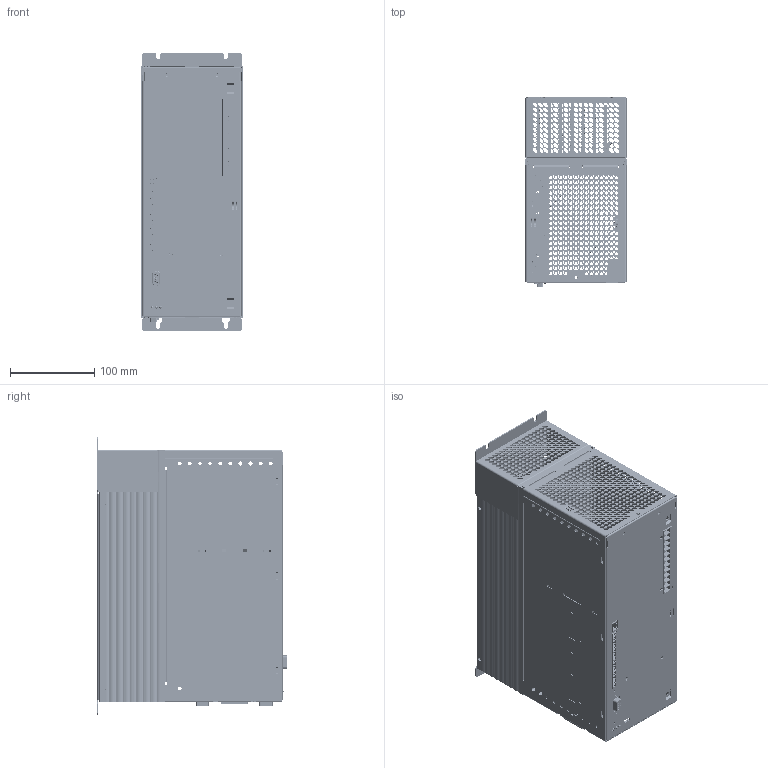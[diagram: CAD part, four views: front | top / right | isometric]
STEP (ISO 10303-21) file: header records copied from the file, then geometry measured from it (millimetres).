
FILE_DESCRIPTION (( 'STEP AP214' ), '1' );
FILE_NAME ('CDB34.014.W_34.017.W.STEP', '2010-09-21T06:22:29', ( 'Bereich' ), ( 'LTi DRiVES GmbH' ), 'SwSTEP 2.0', 'SolidWorks 2008', '' );
FILE_SCHEMA (( 'AUTOMOTIVE_DESIGN' ));
Length unit declared in the file: millimetre
Products named in the file (28): Steuerprint_Standard; LED_3FACH_108455; 0894.Seitenteil-rechts_Standard; pc_4-12-g-7.62_Standard; Lüfterkasten_Standard; MSTBA_2.5-2-G1_Standard; MSTBA_2.5-2-G(1)1_Standard; D_SUB_15POLIG_Standard; polig-Stift_Standard; mc_1_5-10-g-3_81_Standard; Codierschalter_Standard; 0931.500.0-1_Standard; D-SUB 9polig 106256-1_Standard; Steuerprint CDB-1_Standard; 1001.546.0-1_Standard; 1001.546.0-1; D-SUB 9polig 106256; Drucktaster-105902-1_Standard; Drucktaster-105902; LED_3FACH_108455-1_Standard; 0894.K黨lk鰎per_Standard; CDB34.014.W_34.017.W; 1001.577.0; 0894.Seitenteil-links_Standard; 0894.500.0_Standard; Steuerprint CDB-1; Self-clinching Nut_PMM_PEM S-M4-0 ZI--N; 0894.503.0_Standard
Assembly tree (32 placements, depth 4):
  0931.500.0-1_Standard
  Steuerprint CDB-1_Standard
  CDB34.014.W_34.017.W
    1001.577.0
      Self-clinching Nut_PMM_PEM S-M4-0 ZI--N  x6
      0894.503.0_Standard
    0894.500.0_Standard
    0894.Seitenteil-rechts_Standard
    0894.Seitenteil-links_Standard
    Lüfterkasten_Standard
    0894.K黨lk鰎per_Standard
    Steuerprint CDB-1
      Drucktaster-105902
        Drucktaster-105902-1_Standard
      D-SUB 9polig 106256
        D-SUB 9polig 106256-1_Standard
      mc_1_5-10-g-3_81_Standard  x2
      Codierschalter_Standard  x2
      polig-Stift_Standard
      Steuerprint_Standard
      D_SUB_15POLIG_Standard
      MSTBA_2.5-2-G(1)1_Standard
        MSTBA_2.5-2-G1_Standard
      1001.546.0-1
        1001.546.0-1_Standard
      LED_3FACH_108455
        LED_3FACH_108455-1_Standard
    pc_4-12-g-7.62_Standard
Bounding box: 120 x 225.1 x 330 mm (x, y, z)
Volume: 1215735.8 mm3; surface area: 909247.6 mm2
Topology: 25 solids, 25 shells, 7482 faces, 20354 edges, 13277 vertices
Faces by surface type: plane 3759, cylinder 1818, bspline 1765, cone 106, sphere 18, torus 16
Entity records: 228047 total; most frequent: CARTESIAN_POINT 59367, ORIENTED_EDGE 34084, DIRECTION 25932, EDGE_CURVE 17042, VERTEX_POINT 11159, VECTOR 9992, LINE 9992, EDGE_LOOP 8361
